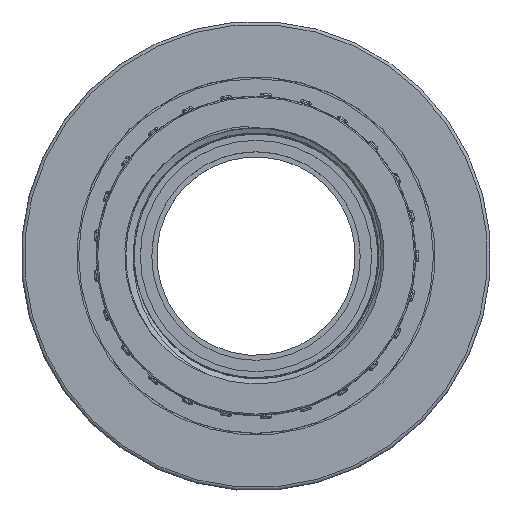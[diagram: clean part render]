
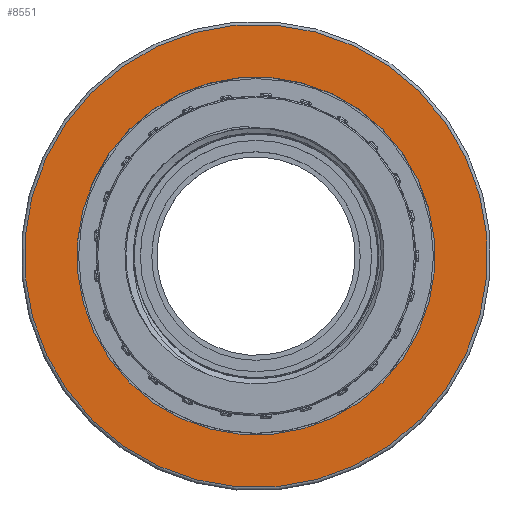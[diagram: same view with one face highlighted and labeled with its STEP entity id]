
A CAD part, top view. The second image highlights one B-rep face of the part: STEP entity #8551.
In plain terms, the highlighted planar face has unit normal (0, 0, 1).
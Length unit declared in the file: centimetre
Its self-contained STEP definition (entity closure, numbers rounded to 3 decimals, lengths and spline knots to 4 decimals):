
#1616=FACE_BOUND('',#2427,.T.);
#1935=FACE_OUTER_BOUND('',#2426,.T.);
#2426=EDGE_LOOP('',(#6710));
#2427=EDGE_LOOP('',(#6711));
#2920=CIRCLE('',#9288,3.7);
#2922=CIRCLE('',#9291,2.86);
#3601=VERTEX_POINT('',#20893);
#3603=VERTEX_POINT('',#20898);
#4690=EDGE_CURVE('',#3601,#3601,#2920,.T.);
#4692=EDGE_CURVE('',#3603,#3603,#2922,.T.);
#6710=ORIENTED_EDGE('',*,*,#4690,.F.);
#6711=ORIENTED_EDGE('',*,*,#4692,.T.);
#7737=PLANE('',#9290);
#8551=ADVANCED_FACE('',(#1935,#1616),#7737,.T.);
#9288=AXIS2_PLACEMENT_3D('',#20894,#11110,#11111);
#9290=AXIS2_PLACEMENT_3D('',#20897,#11114,#11115);
#9291=AXIS2_PLACEMENT_3D('',#20899,#11116,#11117);
#11110=DIRECTION('center_axis',(0.,0.,
-1.));
#11111=DIRECTION('ref_axis',(0.419,0.908,0.));
#11114=DIRECTION('center_axis',(0.,0.,
1.));
#11115=DIRECTION('ref_axis',(0.908,-0.419,0.));
#11116=DIRECTION('center_axis',(0.,0.,
-1.));
#11117=DIRECTION('ref_axis',(0.419,0.908,0.));
#20893=CARTESIAN_POINT('',(-1.5517,-3.3589,1.55));
#20894=CARTESIAN_POINT('Origin',(0.,0.,
1.55));
#20897=CARTESIAN_POINT('Origin',(-1.5726,-3.4043,1.55));
#20898=CARTESIAN_POINT('',(-1.1994,-2.5963,1.55));
#20899=CARTESIAN_POINT('Origin',(0.,0.,
1.55));
